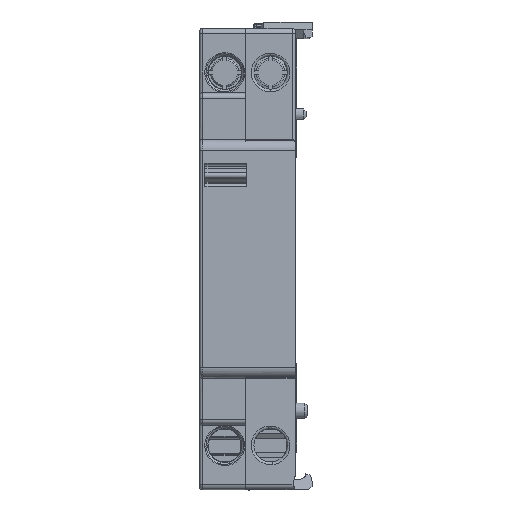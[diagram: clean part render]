
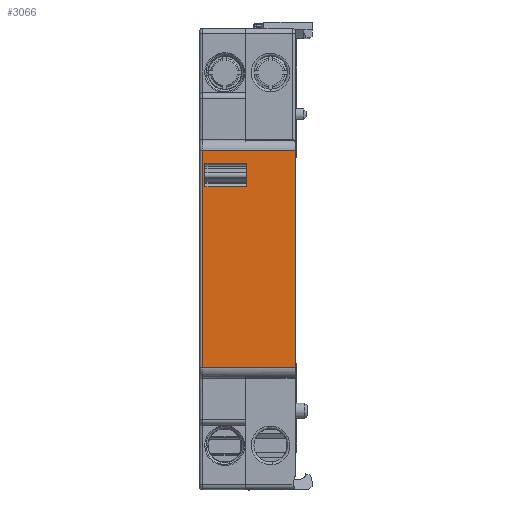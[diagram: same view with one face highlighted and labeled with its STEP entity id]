
A CAD part, top view. The second image highlights one B-rep face of the part: STEP entity #3066.
In plain terms, the highlighted planar face has unit normal (0, 0, 1) as drawn and (0, 1, 0) by its records, which use the part's own axes.
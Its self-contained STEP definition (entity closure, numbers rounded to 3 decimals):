
#1430 = VECTOR ( 'NONE', #20138, 1000. ) ;
#1878 = CARTESIAN_POINT ( 'NONE',  ( 20.55, 60., -9. ) ) ;
#3066 = ADVANCED_FACE ( 'NONE', ( #21377, #14190 ), #61997, .T. ) ;
#3088 = DIRECTION ( 'NONE',  ( 1., 0., 0. ) ) ;
#3422 = DIRECTION ( 'NONE',  ( 0., 1., 0. ) ) ;
#3456 = EDGE_CURVE ( 'NONE', #20055, #44101, #57637, .T. ) ;
#3569 = CARTESIAN_POINT ( 'NONE',  ( 20.55, 60., 8.6 ) ) ;
#3731 = ORIENTED_EDGE ( 'NONE', *, *, #40991, .F. ) ;
#4368 = EDGE_LOOP ( 'NONE', ( #47313, #56216, #62530, #11301, #53081, #67048 ) ) ;
#6104 = VERTEX_POINT ( 'NONE', #45849 ) ;
#6132 = CARTESIAN_POINT ( 'NONE',  ( 18.05, 60., -8.5 ) ) ;
#7541 = CARTESIAN_POINT ( 'NONE',  ( -20.55, 60., 8.6 ) ) ;
#9153 = ORIENTED_EDGE ( 'NONE', *, *, #13540, .F. ) ;
#9291 = CARTESIAN_POINT ( 'NONE',  ( 13.6, 60., -8.5 ) ) ;
#9769 = CARTESIAN_POINT ( 'NONE',  ( 13.6, 60., -0.6 ) ) ;
#10265 = VECTOR ( 'NONE', #50661, 1000. ) ;
#10602 = EDGE_CURVE ( 'NONE', #35903, #56419, #25142, .T. ) ;
#11018 = VERTEX_POINT ( 'NONE', #1878 ) ;
#11301 = ORIENTED_EDGE ( 'NONE', *, *, #12426, .F. ) ;
#11451 = AXIS2_PLACEMENT_3D ( 'NONE', #61657, #3422, #3088 ) ;
#11510 = VECTOR ( 'NONE', #63553, 1000. ) ;
#12426 = EDGE_CURVE ( 'NONE', #6104, #65085, #20935, .T. ) ;
#13540 = EDGE_CURVE ( 'NONE', #46911, #11018, #55922, .T. ) ;
#13817 = EDGE_CURVE ( 'NONE', #63744, #20055, #41818, .T. ) ;
#14190 = FACE_OUTER_BOUND ( 'NONE', #20844, .T. ) ;
#14870 = ORIENTED_EDGE ( 'NONE', *, *, #60207, .F. ) ;
#15764 = VECTOR ( 'NONE', #24156, 1000. ) ;
#19556 = ORIENTED_EDGE ( 'NONE', *, *, #10602, .F. ) ;
#19626 = LINE ( 'NONE', #57705, #32897 ) ;
#20055 = VERTEX_POINT ( 'NONE', #23901 ) ;
#20138 = DIRECTION ( 'NONE',  ( -1., 0., 0. ) ) ;
#20844 = EDGE_LOOP ( 'NONE', ( #9153, #3731, #19556, #14870 ) ) ;
#20935 = LINE ( 'NONE', #45541, #27983 ) ;
#21377 = FACE_BOUND ( 'NONE', #4368, .T. ) ;
#23901 = CARTESIAN_POINT ( 'NONE',  ( 15.825, 60., -8.5 ) ) ;
#24156 = DIRECTION ( 'NONE',  ( 0., 0., -1. ) ) ;
#24760 = VECTOR ( 'NONE', #56737, 1000. ) ;
#25142 = LINE ( 'NONE', #3569, #64640 ) ;
#27211 = CARTESIAN_POINT ( 'NONE',  ( -20.55, 60., -9. ) ) ;
#27582 = DIRECTION ( 'NONE',  ( 0., 0., 1. ) ) ;
#27983 = VECTOR ( 'NONE', #47164, 1000. ) ;
#29404 = CARTESIAN_POINT ( 'NONE',  ( -20.55, 60., -9. ) ) ;
#30400 = DIRECTION ( 'NONE',  ( -1., 0., 0. ) ) ;
#32897 = VECTOR ( 'NONE', #68187, 1000. ) ;
#35431 = EDGE_CURVE ( 'NONE', #44101, #53593, #68581, .T. ) ;
#35903 = VERTEX_POINT ( 'NONE', #63866 ) ;
#37770 = EDGE_CURVE ( 'NONE', #53593, #6104, #19626, .T. ) ;
#39530 = CARTESIAN_POINT ( 'NONE',  ( 18.05, 60., -0.6 ) ) ;
#40991 = EDGE_CURVE ( 'NONE', #56419, #46911, #48297, .T. ) ;
#41818 = LINE ( 'NONE', #52628, #1430 ) ;
#44101 = VERTEX_POINT ( 'NONE', #53817 ) ;
#45541 = CARTESIAN_POINT ( 'NONE',  ( 15.825, 60., -0.6 ) ) ;
#45849 = CARTESIAN_POINT ( 'NONE',  ( 15.825, 60., -0.6 ) ) ;
#46911 = VERTEX_POINT ( 'NONE', #27211 ) ;
#47164 = DIRECTION ( 'NONE',  ( 1., 0., 0. ) ) ;
#47313 = ORIENTED_EDGE ( 'NONE', *, *, #3456, .F. ) ;
#47945 = DIRECTION ( 'NONE',  ( 0., 0., -1. ) ) ;
#48297 = LINE ( 'NONE', #63636, #63170 ) ;
#50661 = DIRECTION ( 'NONE',  ( 1., 0., 0. ) ) ;
#52628 = CARTESIAN_POINT ( 'NONE',  ( 18.05, 60., -8.5 ) ) ;
#53081 = ORIENTED_EDGE ( 'NONE', *, *, #37770, .F. ) ;
#53593 = VERTEX_POINT ( 'NONE', #9769 ) ;
#53817 = CARTESIAN_POINT ( 'NONE',  ( 13.6, 60., -8.5 ) ) ;
#55922 = LINE ( 'NONE', #29404, #10265 ) ;
#56216 = ORIENTED_EDGE ( 'NONE', *, *, #13817, .F. ) ;
#56419 = VERTEX_POINT ( 'NONE', #7541 ) ;
#56737 = DIRECTION ( 'NONE',  ( 0., 0., 1. ) ) ;
#56824 = EDGE_CURVE ( 'NONE', #65085, #63744, #66077, .T. ) ;
#57637 = LINE ( 'NONE', #57979, #11510 ) ;
#57705 = CARTESIAN_POINT ( 'NONE',  ( 13.6, 60., -0.6 ) ) ;
#57979 = CARTESIAN_POINT ( 'NONE',  ( 15.825, 60., -8.5 ) ) ;
#58281 = LINE ( 'NONE', #58976, #65059 ) ;
#58976 = CARTESIAN_POINT ( 'NONE',  ( 20.55, 60., -9. ) ) ;
#60207 = EDGE_CURVE ( 'NONE', #11018, #35903, #58281, .T. ) ;
#60654 = CARTESIAN_POINT ( 'NONE',  ( 18.05, 60., -0.6 ) ) ;
#61657 = CARTESIAN_POINT ( 'NONE',  ( 20.55, 60., 0. ) ) ;
#61997 = PLANE ( 'NONE',  #11451 ) ;
#62530 = ORIENTED_EDGE ( 'NONE', *, *, #56824, .F. ) ;
#63170 = VECTOR ( 'NONE', #47945, 1000. ) ;
#63553 = DIRECTION ( 'NONE',  ( -1., 0., 0. ) ) ;
#63636 = CARTESIAN_POINT ( 'NONE',  ( -20.55, 60., 8.6 ) ) ;
#63744 = VERTEX_POINT ( 'NONE', #6132 ) ;
#63866 = CARTESIAN_POINT ( 'NONE',  ( 20.55, 60., 8.6 ) ) ;
#64640 = VECTOR ( 'NONE', #30400, 1000. ) ;
#65059 = VECTOR ( 'NONE', #27582, 1000. ) ;
#65085 = VERTEX_POINT ( 'NONE', #60654 ) ;
#66077 = LINE ( 'NONE', #39530, #15764 ) ;
#67048 = ORIENTED_EDGE ( 'NONE', *, *, #35431, .F. ) ;
#68187 = DIRECTION ( 'NONE',  ( 1., 0., 0. ) ) ;
#68581 = LINE ( 'NONE', #9291, #24760 ) ;
